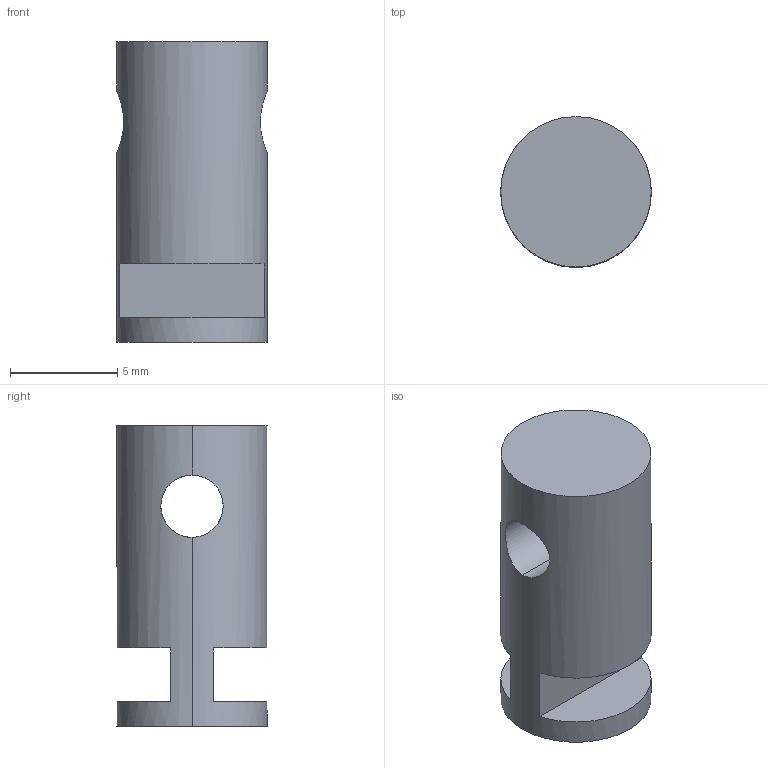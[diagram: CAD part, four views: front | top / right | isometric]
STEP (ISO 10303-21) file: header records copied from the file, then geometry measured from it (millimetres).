
FILE_DESCRIPTION (( 'STEP AP214' ), '1' );
FILE_NAME ('Distanciador PP10.STEP', '2017-07-19T09:05:34', ( 'aaa' ), ( '' ), 'SwSTEP 2.0', 'SolidWorks 2013', '' );
FILE_SCHEMA (( 'AUTOMOTIVE_DESIGN' ));
Length unit declared in the file: millimetre
Products named in the file (1): Distanciador PP10
Bounding box: 7 x 7 x 14 mm (x, y, z)
Volume: 431.4 mm3; surface area: 470.6 mm2
Topology: 1 solids, 1 shells, 12 faces, 26 edges, 16 vertices
Faces by surface type: plane 8, cylinder 4
Entity records: 460 total; most frequent: CARTESIAN_POINT 159, DIRECTION 56, ORIENTED_EDGE 52, EDGE_CURVE 26, AXIS2_PLACEMENT_3D 21, VERTEX_POINT 16, LINE 14, VECTOR 14
